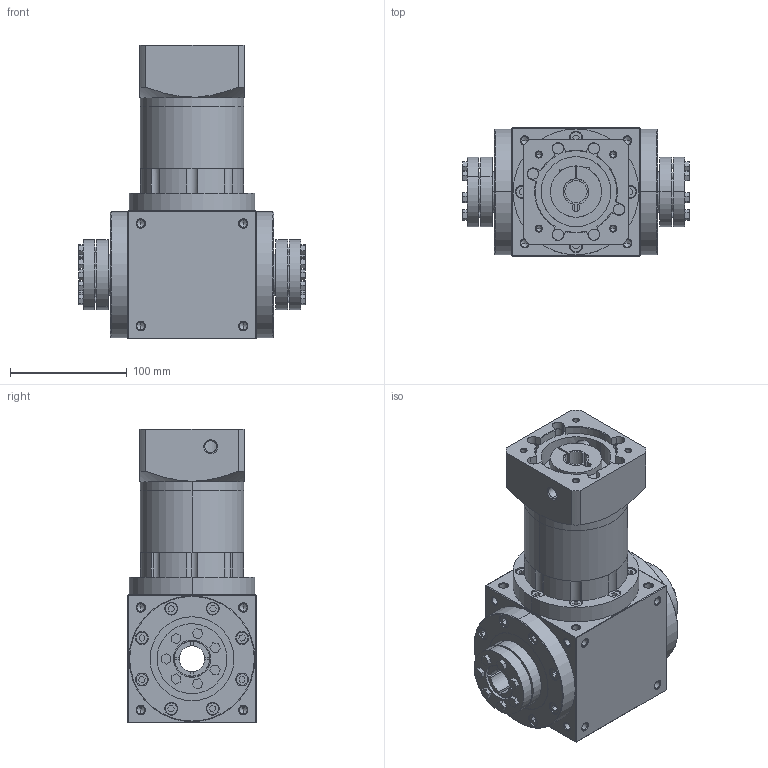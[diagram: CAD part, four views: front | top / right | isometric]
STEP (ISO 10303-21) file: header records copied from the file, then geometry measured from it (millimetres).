
FILE_DESCRIPTION (( 'STEP AP203' ), '1' );
FILE_NAME ('AT120-FC-L3-19-70-90M6.STEP', '2025-12-19T03:13:52', ( 'Windows User' ), ( 'P R C' ), 'SwSTEP 2.0', 'SolidWorks 2016', '' );
FILE_SCHEMA (( 'CONFIG_CONTROL_DESIGN' ));
Length unit declared in the file: millimetre
Products named in the file (7): AT120-怀堤楊擘-蠶講; AT120H-双级齿圈; AT120输入法兰-B-70-M6-90; 输入胀套-22; AT120-蛌褒眊极-謂-怀堤-FC; AT120坶踡攫-謂-30-FC; AT120-FC-L3-19-70-90M6
Assembly tree (7 placements, depth 2):
  AT120-FC-L3-19-70-90M6
    AT120-怀堤楊擘-蠶講
    AT120H-双级齿圈
    AT120输入法兰-B-70-M6-90
    输入胀套-22
    AT120-蛌褒眊极-謂-怀堤-FC
    AT120坶踡攫-謂-30-FC  x2
Bounding box: 194 x 110 x 252 mm (x, y, z)
Volume: 1982524.6 mm3; surface area: 318683.1 mm2
Topology: 7 solids, 19 shells, 1729 faces, 4496 edges, 2883 vertices
Faces by surface type: plane 909, cylinder 427, cone 225, bspline 168
Entity records: 58253 total; most frequent: CARTESIAN_POINT 18430, ORIENTED_EDGE 8408, DIRECTION 7519, EDGE_CURVE 4204, VERTEX_POINT 2747, VECTOR 2677, LINE 2677, AXIS2_PLACEMENT_3D 2421
